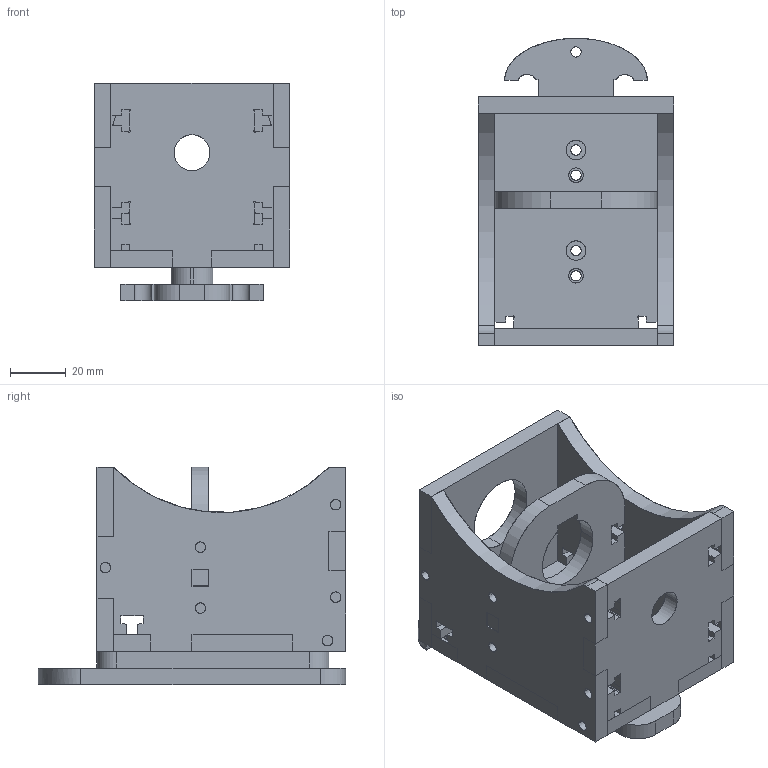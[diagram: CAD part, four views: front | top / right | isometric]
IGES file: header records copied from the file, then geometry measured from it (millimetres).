
Start section: SolidWorks IGES file using analytic representation for surfaces
Global section: file name: C:\Documents and Settings\Jimmy Smith\My Documents\Fab@Home\Model_2\Model_2 CAD\Parasoild\Dremel Tool.IGS; native system: SolidWorks 2009; preprocessor: SolidWorks 2009; author: Jimmy Smith; date: 130223.195748; units: inch
Bounding box: 70.01 x 110 x 78 mm (x, y, z)
Surface area: 75198.1 mm2 (no closed solid volume)
Topology: 0 solids, 0 shells, 444 faces, 5180 edges, 5180 vertices
Faces by surface type: bspline 329, revolution 115
